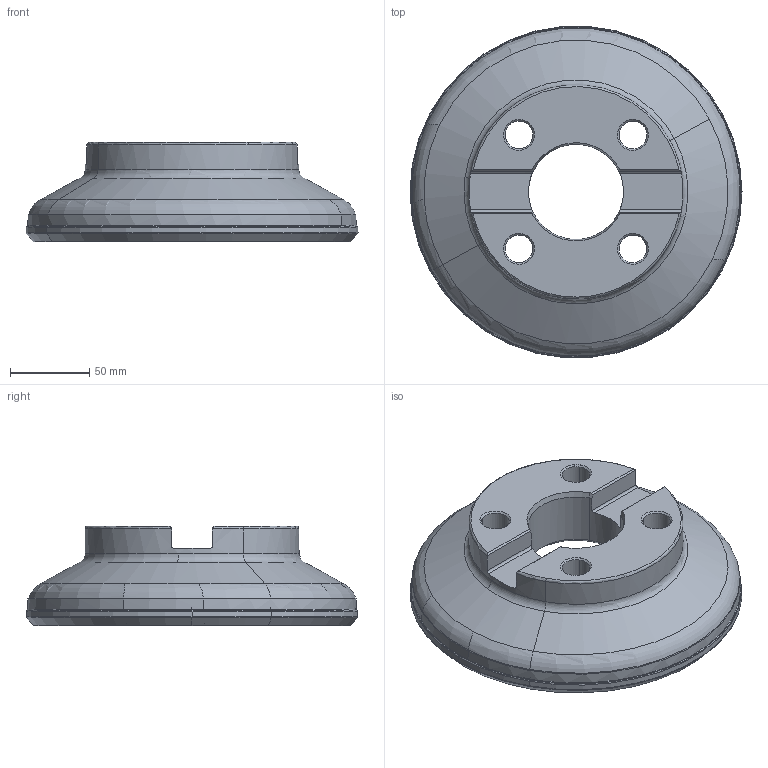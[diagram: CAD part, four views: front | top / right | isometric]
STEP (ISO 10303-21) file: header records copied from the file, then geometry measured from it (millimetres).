
FILE_DESCRIPTION(('CATIA V5 STEP'),'2;1');
FILE_NAME('N:\data\isr\design\special1\users\NATALY_B\Tal\NPA\3107002\IQ845 FSY D200-14-60-R07-L.stp','2014-04-10T14:37:57+00:00',('none'),('none'),'CATIA Version 5 Release 21 SP 3 (IN-10)','CATIA V5 STEP AP214','none');
FILE_SCHEMA(('AUTOMOTIVE_DESIGN { 1 0 10303 214 1 1 1 1 }'));
Length unit declared in the file: millimetre
Products named in the file (1): 6IQ845 FSY D200-14-60-R07
Bounding box: 209.36 x 208.69 x 63 mm (x, y, z)
Volume: 920342.8 mm3; surface area: 132082.7 mm2
Topology: 2 solids, 2 shells, 229 faces, 531 edges, 304 vertices
Faces by surface type: revolution 116, cone 47, torus 24, cylinder 24, plane 18
Entity records: 10223 total; most frequent: CARTESIAN_POINT 4258, ORIENTED_EDGE 1062, DIRECTION 702, EDGE_CURVE 531, AXIS2_PLACEMENT_3D 369, VERTEX_POINT 304, CIRCLE 267, B_SPLINE_CURVE_WITH_KNOTS 263
